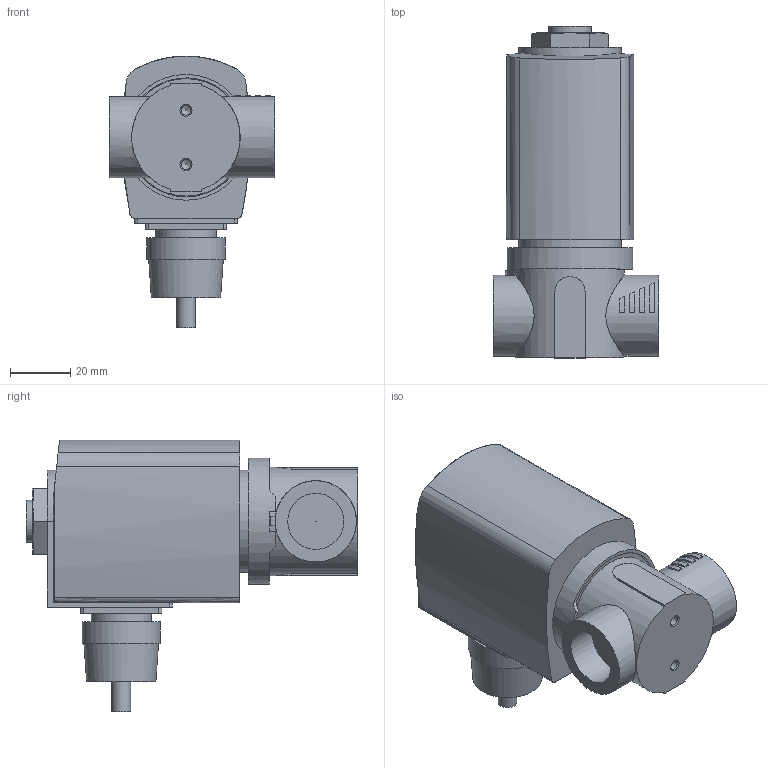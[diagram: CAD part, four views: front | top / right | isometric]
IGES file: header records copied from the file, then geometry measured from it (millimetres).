
Start section: Data from Parasolid IGES Translator 26.0.171, Copyright(c) 2006 Siemens PLM Software. All Rights Reserved.
Global section: file name: 6240-380832-2_2-way_solenoid_valve__pilot-controlled.igs; native system: By Siemens PLM Incorporated; preprocessor: XPlus GENERIC/IGES 26.0.171; author: Noname; organization: Noname; date: 20240510.101956; units: millimetre
Bounding box: 55 x 110.2 x 90.3 mm (x, y, z)
Surface area: 30667.7 mm2 (no closed solid volume)
Topology: 0 solids, 0 shells, 122 faces, 592 edges, 573 vertices
Faces by surface type: extrusion 70, revolution 52
